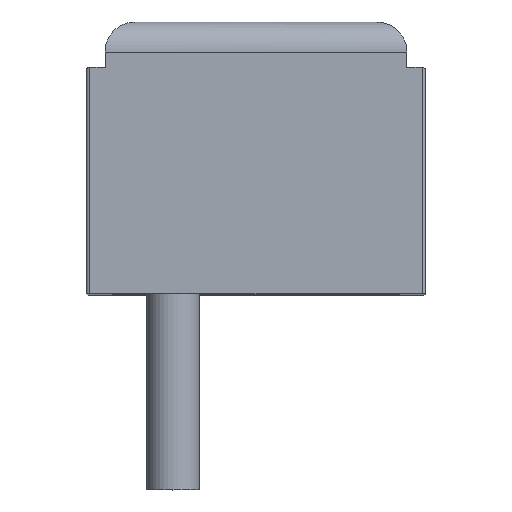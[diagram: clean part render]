
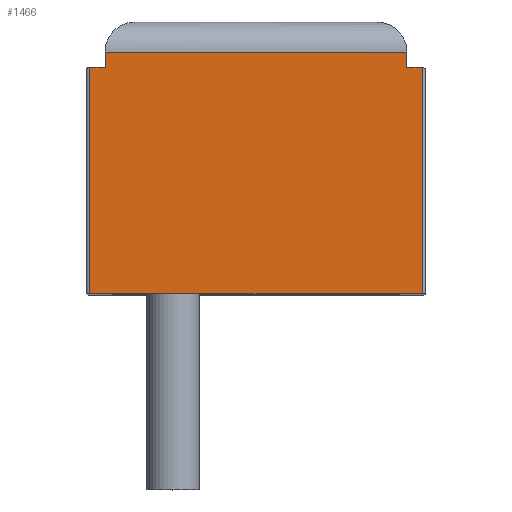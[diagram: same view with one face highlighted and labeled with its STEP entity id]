
A CAD part, top view. The second image highlights one B-rep face of the part: STEP entity #1466.
In plain terms, the highlighted planar face has unit normal (0, 0, 1).
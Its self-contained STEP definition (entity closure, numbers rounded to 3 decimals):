
#106 = ORIENTED_EDGE ( 'NONE', *, *, #1642, .F. ) ;
#107 = ORIENTED_EDGE ( 'NONE', *, *, #1643, .T. ) ;
#108 = ORIENTED_EDGE ( 'NONE', *, *, #1641, .T. ) ;
#109 = ORIENTED_EDGE ( 'NONE', *, *, #1602, .T. ) ;
#110 = ORIENTED_EDGE ( 'NONE', *, *, #1627, .T. ) ;
#111 = ORIENTED_EDGE ( 'NONE', *, *, #1618, .T. ) ;
#112 = ORIENTED_EDGE ( 'NONE', *, *, #1640, .T. ) ;
#113 = ORIENTED_EDGE ( 'NONE', *, *, #1598, .T. ) ;
#273 = CARTESIAN_POINT ( 'NONE',  ( 1., 16., 70. ) ) ;
#284 = CARTESIAN_POINT ( 'NONE',  ( 0., 0., 70. ) ) ;
#293 = CARTESIAN_POINT ( 'NONE',  ( 22., 0., 70. ) ) ;
#296 = CARTESIAN_POINT ( 'NONE',  ( 21., 16., 70. ) ) ;
#299 = CARTESIAN_POINT ( 'NONE',  ( 0., 15., 70. ) ) ;
#301 = CARTESIAN_POINT ( 'NONE',  ( 1., 15., 70. ) ) ;
#302 = CARTESIAN_POINT ( 'NONE',  ( 22., 15., 70. ) ) ;
#303 = CARTESIAN_POINT ( 'NONE',  ( 21., 15., 70. ) ) ;
#517 = PLANE ( 'NONE',  #2214 ) ;
#518 = CARTESIAN_POINT ( 'NONE',  ( 0., 0., 70. ) ) ;
#519 = DIRECTION ( 'NONE',  ( 0., 0., -1. ) ) ;
#520 = DIRECTION ( 'NONE',  ( -1., 0., 0. ) ) ;
#1238 = VERTEX_POINT ( 'NONE', #273 ) ;
#1249 = VERTEX_POINT ( 'NONE', #284 ) ;
#1258 = VERTEX_POINT ( 'NONE', #293 ) ;
#1261 = VERTEX_POINT ( 'NONE', #296 ) ;
#1264 = VERTEX_POINT ( 'NONE', #299 ) ;
#1266 = VERTEX_POINT ( 'NONE', #301 ) ;
#1267 = VERTEX_POINT ( 'NONE', #302 ) ;
#1268 = VERTEX_POINT ( 'NONE', #303 ) ;
#1341 = EDGE_LOOP ( 'NONE', ( #106, #108, #107, #109, #111, #110, #112, #113 ) ) ;
#1466 = ADVANCED_FACE ( 'NONE', ( #2206 ), #517, .F. ) ;
#1598 = EDGE_CURVE ( 'NONE', #1267, #1268, #1871, .T. ) ;
#1602 = EDGE_CURVE ( 'NONE', #1266, #1264, #1883, .T. ) ;
#1618 = EDGE_CURVE ( 'NONE', #1264, #1249, #1931, .T. ) ;
#1627 = EDGE_CURVE ( 'NONE', #1249, #1258, #1958, .T. ) ;
#1640 = EDGE_CURVE ( 'NONE', #1258, #1267, #1997, .T. ) ;
#1641 = EDGE_CURVE ( 'NONE', #1261, #1238, #2000, .T. ) ;
#1642 = EDGE_CURVE ( 'NONE', #1261, #1268, #2003, .T. ) ;
#1643 = EDGE_CURVE ( 'NONE', #1238, #1266, #2006, .T. ) ;
#1871 = LINE ( 'NONE', #1872, #2416 ) ;
#1872 = CARTESIAN_POINT ( 'NONE',  ( 0., 15., 70. ) ) ;
#1873 = DIRECTION ( 'NONE',  ( -1., 0., 0. ) ) ;
#1883 = LINE ( 'NONE', #1884, #2420 ) ;
#1884 = CARTESIAN_POINT ( 'NONE',  ( 0., 15., 70. ) ) ;
#1885 = DIRECTION ( 'NONE',  ( -1., 0., 0. ) ) ;
#1931 = LINE ( 'NONE', #1932, #2438 ) ;
#1932 = CARTESIAN_POINT ( 'NONE',  ( 0., 0., 70. ) ) ;
#1933 = DIRECTION ( 'NONE',  ( 0., -1., 0. ) ) ;
#1958 = LINE ( 'NONE', #1959, #2448 ) ;
#1959 = CARTESIAN_POINT ( 'NONE',  ( 0., 0., 70. ) ) ;
#1960 = DIRECTION ( 'NONE',  ( 1., 0., 0. ) ) ;
#1997 = LINE ( 'NONE', #1998, #2459 ) ;
#1998 = CARTESIAN_POINT ( 'NONE',  ( 22., 0., 70. ) ) ;
#1999 = DIRECTION ( 'NONE',  ( 0., 1., 0. ) ) ;
#2000 = LINE ( 'NONE', #2001, #2460 ) ;
#2001 = CARTESIAN_POINT ( 'NONE',  ( 1., 16., 70. ) ) ;
#2002 = DIRECTION ( 'NONE',  ( -1., 0., 0. ) ) ;
#2003 = LINE ( 'NONE', #2004, #2461 ) ;
#2004 = CARTESIAN_POINT ( 'NONE',  ( 21., 18., 70. ) ) ;
#2005 = DIRECTION ( 'NONE',  ( 0., -1., 0. ) ) ;
#2006 = LINE ( 'NONE', #2007, #2462 ) ;
#2007 = CARTESIAN_POINT ( 'NONE',  ( 1., 18., 70. ) ) ;
#2008 = DIRECTION ( 'NONE',  ( 0., -1., 0. ) ) ;
#2206 = FACE_OUTER_BOUND ( 'NONE', #1341, .T. ) ;
#2214 = AXIS2_PLACEMENT_3D ( 'NONE', #518, #519, #520 ) ;
#2416 = VECTOR ( 'NONE', #1873, 1000. ) ;
#2420 = VECTOR ( 'NONE', #1885, 1000. ) ;
#2438 = VECTOR ( 'NONE', #1933, 1000. ) ;
#2448 = VECTOR ( 'NONE', #1960, 1000. ) ;
#2459 = VECTOR ( 'NONE', #1999, 1000. ) ;
#2460 = VECTOR ( 'NONE', #2002, 1000. ) ;
#2461 = VECTOR ( 'NONE', #2005, 1000. ) ;
#2462 = VECTOR ( 'NONE', #2008, 1000. ) ;
